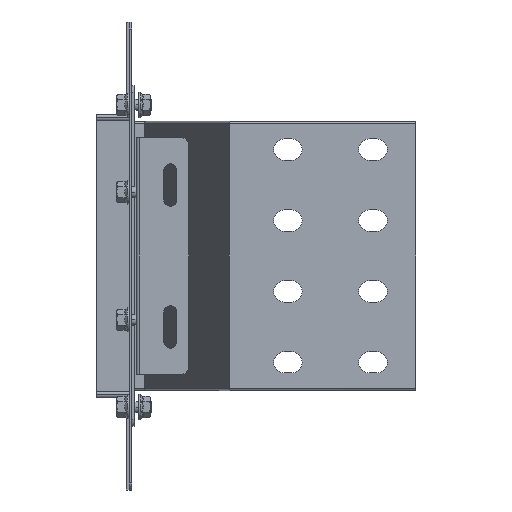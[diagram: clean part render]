
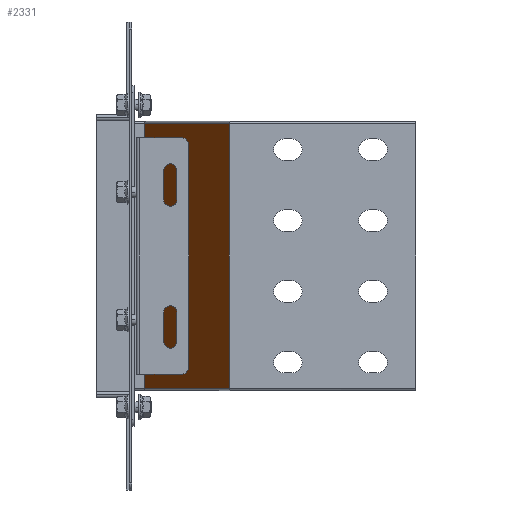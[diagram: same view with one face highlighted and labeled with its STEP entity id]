
A CAD part, front view. The second image highlights one B-rep face of the part: STEP entity #2331.
In plain terms, the highlighted planar face has unit normal (-0.922, -0.387, 0).
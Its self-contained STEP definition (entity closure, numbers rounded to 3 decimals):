
#2311=AXIS2_PLACEMENT_3D('Plane Axis2P3D',#2308,#2309,#2310) ;
#1811=CARTESIAN_POINT('Vertex',(68.736,-151.9,-93.1)) ;
#1825=CARTESIAN_POINT('Vertex',(68.736,-151.9,93.1)) ;
#1828=CARTESIAN_POINT('Line Origine',(68.736,-151.9,0.)) ;
#2274=CARTESIAN_POINT('Line Origine',(38.248,-79.154,-93.1)) ;
#2278=CARTESIAN_POINT('Vertex',(8.736,-8.74,-93.1)) ;
#2308=CARTESIAN_POINT('Axis2P3D Location',(69.225,-153.066,-93.1)) ;
#2313=CARTESIAN_POINT('Line Origine',(38.736,-80.32,93.1)) ;
#2317=CARTESIAN_POINT('Vertex',(8.736,-8.74,93.1)) ;
#2320=CARTESIAN_POINT('Line Origine',(8.736,-8.74,0.)) ;
#1829=DIRECTION('Vector Direction',(0.,0.,1.)) ;
#2275=DIRECTION('Vector Direction',(0.387,-0.922,0.)) ;
#2309=DIRECTION('Axis2P3D Direction',(-0.922,-0.387,0.)) ;
#2310=DIRECTION('Axis2P3D XDirection',(0.,0.,1.)) ;
#2314=DIRECTION('Vector Direction',(-0.387,0.922,0.)) ;
#2321=DIRECTION('Vector Direction',(0.,0.,1.)) ;
#1830=VECTOR('Line Direction',#1829,1.) ;
#2276=VECTOR('Line Direction',#2275,1.) ;
#2315=VECTOR('Line Direction',#2314,1.) ;
#2322=VECTOR('Line Direction',#2321,1.) ;
#2326=ORIENTED_EDGE('',*,*,#2319,.T.) ;
#2327=ORIENTED_EDGE('',*,*,#2324,.F.) ;
#2328=ORIENTED_EDGE('',*,*,#2280,.F.) ;
#2329=ORIENTED_EDGE('',*,*,#1832,.T.) ;
#2331=ADVANCED_FACE('N',(#2330),#2312,.T.) ;
#1832=EDGE_CURVE('',#1812,#1826,#1831,.T.) ;
#2280=EDGE_CURVE('',#1812,#2279,#2277,.F.) ;
#2319=EDGE_CURVE('',#1826,#2318,#2316,.T.) ;
#2324=EDGE_CURVE('',#2279,#2318,#2323,.T.) ;
#2325=EDGE_LOOP('',(#2326,#2327,#2328,#2329)) ;
#2330=FACE_OUTER_BOUND('',#2325,.T.) ;
#1831=LINE('Line',#1828,#1830) ;
#2277=LINE('Line',#2274,#2276) ;
#2316=LINE('Line',#2313,#2315) ;
#2323=LINE('Line',#2320,#2322) ;
#2312=PLANE('',#2311) ;
#1812=VERTEX_POINT('',#1811) ;
#1826=VERTEX_POINT('',#1825) ;
#2279=VERTEX_POINT('',#2278) ;
#2318=VERTEX_POINT('',#2317) ;
